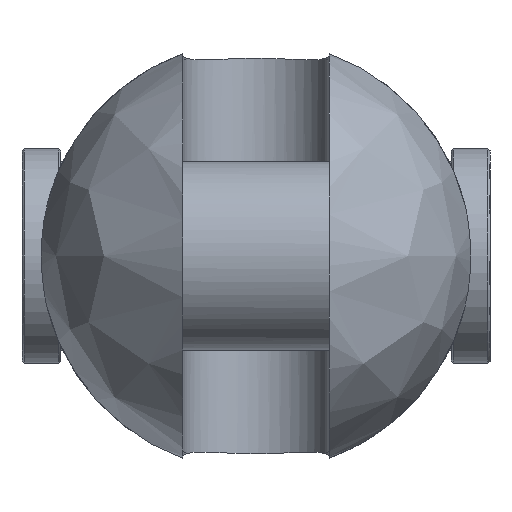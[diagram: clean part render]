
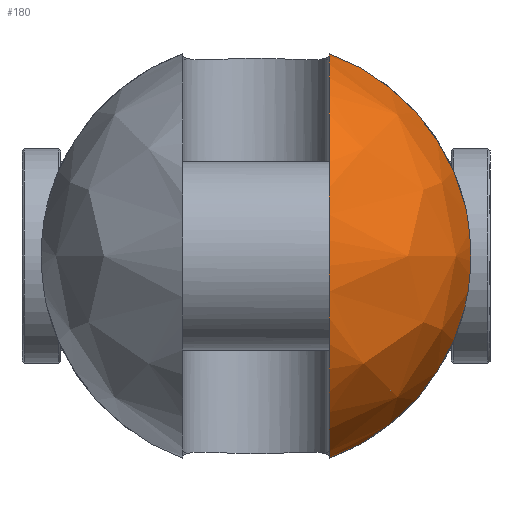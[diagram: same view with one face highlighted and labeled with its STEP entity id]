
A CAD part, left-side view. The second image highlights one B-rep face of the part: STEP entity #180.
In plain terms, the highlighted free-form (B-spline) face has degree [2, 2] with [9, 5] control points.
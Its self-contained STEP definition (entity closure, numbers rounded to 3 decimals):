
#180=ADVANCED_FACE('',(#322),#2440,.T.);
#322=FACE_OUTER_BOUND('',#484,.T.);
#484=EDGE_LOOP('',(#1205,#1206,#1207,#1208));
#1205=ORIENTED_EDGE('',*,*,#1592,.T.);
#1206=ORIENTED_EDGE('',*,*,#1618,.F.);
#1207=ORIENTED_EDGE('',*,*,#1630,.T.);
#1208=ORIENTED_EDGE('',*,*,#1610,.F.);
#1592=EDGE_CURVE('',#2271,#2270,#2002,.T.);
#1610=EDGE_CURVE('',#2271,#2283,#2012,.T.);
#1618=EDGE_CURVE('',#2290,#2270,#2013,.T.);
#1630=EDGE_CURVE('',#2290,#2283,#1805,.T.);
#1805=B_SPLINE_CURVE_WITH_KNOTS('',3,(#6226,#6227,#6228,#6229,#6230,#6231,
#6232,#6233,#6234,#6235,#6236,#6237,#6238,#6239),.UNSPECIFIED.,.F.,.F.,
(4,2,2,2,2,2,4),(0.,1.644,7.193,12.741,
18.289,23.838,25.482),.UNSPECIFIED.);
#2002=(
BOUNDED_CURVE()
B_SPLINE_CURVE(2,(#5982,#5983,#5984,#5985,#5986),.UNSPECIFIED.,.F.,.F.)
B_SPLINE_CURVE_WITH_KNOTS((3,2,3),(-147.722,-73.861,0.),
 .UNSPECIFIED.)
CURVE()
GEOMETRIC_REPRESENTATION_ITEM()
RATIONAL_B_SPLINE_CURVE((1.,0.707,1.,0.707,1.))
REPRESENTATION_ITEM('')
);
#2012=(
BOUNDED_CURVE()
B_SPLINE_CURVE(2,(#6096,#6097,#6098),.UNSPECIFIED.,.F.,.F.)
B_SPLINE_CURVE_WITH_KNOTS((3,3),(0.,48.948),.UNSPECIFIED.)
CURVE()
GEOMETRIC_REPRESENTATION_ITEM()
RATIONAL_B_SPLINE_CURVE((1.,0.883,1.))
REPRESENTATION_ITEM('')
);
#2013=(
BOUNDED_CURVE()
B_SPLINE_CURVE(2,(#6153,#6154,#6155),.UNSPECIFIED.,.F.,.F.)
B_SPLINE_CURVE_WITH_KNOTS((3,3),(0.,48.948),.UNSPECIFIED.)
CURVE()
GEOMETRIC_REPRESENTATION_ITEM()
RATIONAL_B_SPLINE_CURVE((1.,0.883,1.))
REPRESENTATION_ITEM('')
);
#2270=VERTEX_POINT('',#5854);
#2271=VERTEX_POINT('',#5855);
#2283=VERTEX_POINT('',#5867);
#2290=VERTEX_POINT('',#5874);
#2440=(
BOUNDED_SURFACE()
B_SPLINE_SURFACE(2,2,((#5568,#5569,#5570,#5571,#5572),(#5573,#5574,#5575,
#5576,#5577),(#5578,#5579,#5580,#5581,#5582),(#5583,#5584,#5585,#5586,#5587),
(#5588,#5589,#5590,#5591,#5592),(#5593,#5594,#5595,#5596,#5597),(#5598,
#5599,#5600,#5601,#5602),(#5603,#5604,#5605,#5606,#5607),(#5608,#5609,#5610,
#5611,#5612)),.UNSPECIFIED.,.T.,.F.,.F.)
B_SPLINE_SURFACE_WITH_KNOTS((3,2,2,2,3),(3,2,3),(0.,78.54,157.08,
235.619,314.159),(0.,78.54,157.08),
 .UNSPECIFIED.)
GEOMETRIC_REPRESENTATION_ITEM()
RATIONAL_B_SPLINE_SURFACE(((1.,0.707,1.,0.707,1.),
(0.707,0.5,0.707,0.5,0.707),(1.,0.707,
1.,0.707,1.),(0.707,0.5,0.707,0.5,0.707),
(1.,0.707,1.,0.707,1.),(0.707,0.5,0.707,
0.5,0.707),(1.,0.707,1.,0.707,1.),(0.707,
0.5,0.707,0.5,0.707),(1.,0.707,1.,0.707,
1.)))
REPRESENTATION_ITEM('')
SURFACE()
);
#5568=CARTESIAN_POINT('',(-73.,0.,0.));
#5569=CARTESIAN_POINT('',(-73.,50.,0.));
#5570=CARTESIAN_POINT('',(-23.,50.,0.));
#5571=CARTESIAN_POINT('',(27.,50.,0.));
#5572=CARTESIAN_POINT('',(27.,0.,0.));
#5573=CARTESIAN_POINT('',(-73.,0.,0.));
#5574=CARTESIAN_POINT('',(-73.,50.,50.));
#5575=CARTESIAN_POINT('',(-23.,50.,50.));
#5576=CARTESIAN_POINT('',(27.,50.,50.));
#5577=CARTESIAN_POINT('',(27.,0.,0.));
#5578=CARTESIAN_POINT('',(-73.,0.,0.));
#5579=CARTESIAN_POINT('',(-73.,0.,50.));
#5580=CARTESIAN_POINT('',(-23.,0.,50.));
#5581=CARTESIAN_POINT('',(27.,0.,50.));
#5582=CARTESIAN_POINT('',(27.,0.,0.));
#5583=CARTESIAN_POINT('',(-73.,0.,0.));
#5584=CARTESIAN_POINT('',(-73.,-50.,50.));
#5585=CARTESIAN_POINT('',(-23.,-50.,50.));
#5586=CARTESIAN_POINT('',(27.,-50.,50.));
#5587=CARTESIAN_POINT('',(27.,0.,0.));
#5588=CARTESIAN_POINT('',(-73.,0.,0.));
#5589=CARTESIAN_POINT('',(-73.,-50.,0.));
#5590=CARTESIAN_POINT('',(-23.,-50.,0.));
#5591=CARTESIAN_POINT('',(27.,-50.,0.));
#5592=CARTESIAN_POINT('',(27.,0.,0.));
#5593=CARTESIAN_POINT('',(-73.,0.,0.));
#5594=CARTESIAN_POINT('',(-73.,-50.,-50.));
#5595=CARTESIAN_POINT('',(-23.,-50.,-50.));
#5596=CARTESIAN_POINT('',(27.,-50.,-50.));
#5597=CARTESIAN_POINT('',(27.,0.,0.));
#5598=CARTESIAN_POINT('',(-73.,0.,0.));
#5599=CARTESIAN_POINT('',(-73.,0.,-50.));
#5600=CARTESIAN_POINT('',(-23.,0.,-50.));
#5601=CARTESIAN_POINT('',(27.,0.,-50.));
#5602=CARTESIAN_POINT('',(27.,0.,0.));
#5603=CARTESIAN_POINT('',(-73.,0.,0.));
#5604=CARTESIAN_POINT('',(-73.,50.,-50.));
#5605=CARTESIAN_POINT('',(-23.,50.,-50.));
#5606=CARTESIAN_POINT('',(27.,50.,-50.));
#5607=CARTESIAN_POINT('',(27.,0.,0.));
#5608=CARTESIAN_POINT('',(-73.,0.,0.));
#5609=CARTESIAN_POINT('',(-73.,50.,0.));
#5610=CARTESIAN_POINT('',(-23.,50.,0.));
#5611=CARTESIAN_POINT('',(27.,50.,0.));
#5612=CARTESIAN_POINT('',(27.,0.,0.));
#5854=CARTESIAN_POINT('',(-23.,-17.,-47.021));
#5855=CARTESIAN_POINT('',(-23.,-17.,47.021));
#5867=CARTESIAN_POINT('',(-23.,-48.508,12.124));
#5874=CARTESIAN_POINT('',(-23.,-48.508,-12.124));
#5982=CARTESIAN_POINT('',(-23.,-17.,47.021));
#5983=CARTESIAN_POINT('',(-70.021,-17.,47.021));
#5984=CARTESIAN_POINT('',(-70.021,-17.,0.));
#5985=CARTESIAN_POINT('',(-70.021,-17.,-47.021));
#5986=CARTESIAN_POINT('',(-23.,-17.,-47.021));
#6096=CARTESIAN_POINT('',(-23.,-17.,47.021));
#6097=CARTESIAN_POINT('',(-23.,-42.049,37.965));
#6098=CARTESIAN_POINT('',(-23.,-48.508,12.124));
#6153=CARTESIAN_POINT('',(-23.,-48.508,-12.124));
#6154=CARTESIAN_POINT('',(-23.,-42.049,-37.965));
#6155=CARTESIAN_POINT('',(-23.,-17.,-47.021));
#6226=CARTESIAN_POINT('',(-23.,-48.508,-12.124));
#6227=CARTESIAN_POINT('',(-23.253,-48.628,-11.645));
#6228=CARTESIAN_POINT('',(-23.491,-48.74,-11.156));
#6229=CARTESIAN_POINT('',(-24.469,-49.2,-8.982));
#6230=CARTESIAN_POINT('',(-25.048,-49.47,-7.21));
#6231=CARTESIAN_POINT('',(-25.814,-49.824,-3.609));
#6232=CARTESIAN_POINT('',(-26.,-49.91,-1.781));
#6233=CARTESIAN_POINT('',(-26.,-49.91,1.781));
#6234=CARTESIAN_POINT('',(-25.814,-49.824,3.609));
#6235=CARTESIAN_POINT('',(-25.048,-49.47,7.21));
#6236=CARTESIAN_POINT('',(-24.469,-49.2,8.982));
#6237=CARTESIAN_POINT('',(-23.491,-48.74,11.156));
#6238=CARTESIAN_POINT('',(-23.253,-48.628,11.645));
#6239=CARTESIAN_POINT('',(-23.,-48.508,12.124));
